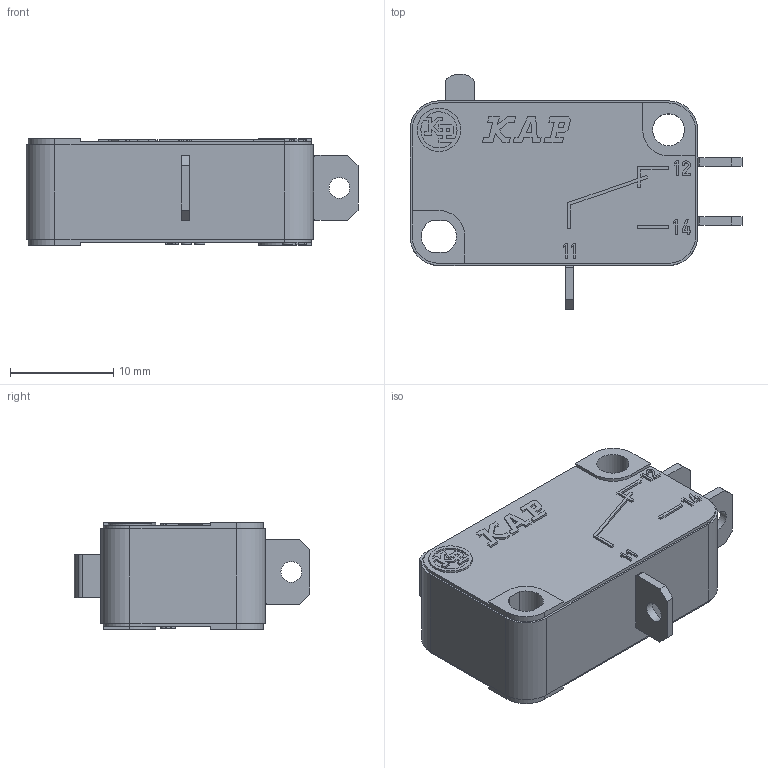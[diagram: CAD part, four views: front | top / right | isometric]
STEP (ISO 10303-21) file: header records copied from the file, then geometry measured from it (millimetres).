
FILE_DESCRIPTION(('Microrutor Miniat. Pino'),'2;1');
FILE_NAME('E:\WorkFolder\Bibl\3DWeb\kp_mv_mv$aic$_step.stp','2011-05-17T11:14:11',('DIE'),('KAP'),'Autodesk Inventor 2011','Autodesk Inventor 2011','Direitos reservados. Proibido reproducao, cedencia ou revelacao de conteudo a terceiros, salvo com autorizacao.');
FILE_SCHEMA(('AUTOMOTIVE_DESIGN { 1 0 10303 214 1 1 1 1 }'));
Length unit declared in the file: millimetre
Products named in the file (1): Part3
Bounding box: 32.1 x 22.8 x 10.3 mm (x, y, z)
Volume: 4154 mm3; surface area: 2153.2 mm2
Topology: 1 solids, 1 shells, 369 faces, 993 edges, 658 vertices
Faces by surface type: plane 317, cylinder 52
Full cylindrical faces by diameter (mm): 2 x3, 3.1 x1, 4.2 x1
Entity records: 11760 total; most frequent: CARTESIAN_POINT 2008, ORIENTED_EDGE 1968, DIRECTION 1828, EDGE_CURVE 984, VECTOR 880, LINE 880, VERTEX_POINT 654, AXIS2_PLACEMENT_3D 474
